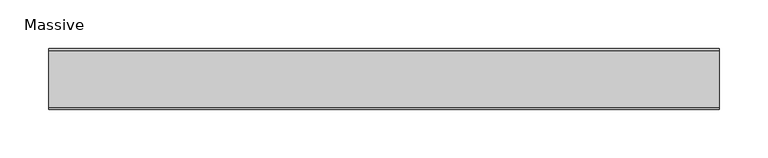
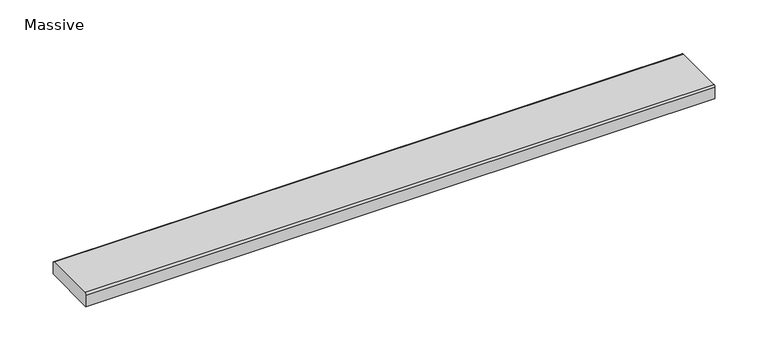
"""IFC4 building model written with IfcOpenShell, lengths in millimetres: sanitary terminal geometry, ZZZ_do not use_PF_ST_grating for showerdrain c INT_Aco : Massive."""

from ifc_helpers import new_model, si_unit, point, frame, frame_2d, origin, place, context, project, spatial, polyline, circle_curve, trimmed, segment, composite_curve, outline, extrude, source, transform, mapped, element, save


def massive_860a07fc(model_context):
    return source(origin(), model_context, "Body", "SweptSolid", [
        extrude(outline(composite_curve([segment(polyline([(31.0, -15.0), (-31.0, -15.0), (-31.0, -1.977849)]), True, "CONTINUOUS"), segment(trimmed(circle_curve(frame_2d((-29.022151, -1.977849)), 1.977849), [point((-31.0, -1.977849))], [point((-29.022151, 0.0))], False, "CARTESIAN"), True, "CONTINUOUS"), segment(polyline([(-29.022151, 0.0), (29.022151, 0.0)]), True, "CONTINUOUS"), segment(trimmed(circle_curve(frame_2d((29.022151, -1.977849)), 1.977849), [point((29.022151, 0.0))], [point((31.0, -1.977849))], False, "CARTESIAN"), True, "CONTINUOUS"), segment(polyline([(31.0, -1.977849), (31.0, -15.0)]), True, "CONTINUOUS")], self_intersect=False)), frame((-342.5, 0.0, 0.0), z_axis=(1.0, 0.0, 0.0), x_axis=(0.0, 1.0, 0.0)), (0.0, 0.0, 1.0), 685.0),
    ])


if __name__ == "__main__":
    model = new_model("IFC4")
    model_context = context("Model", 3, world=origin())
    ifc_project = project(units=[si_unit("LENGTHUNIT", "METRE", prefix="MILLI")], contexts=[model_context])
    site = spatial("IfcSite", under=ifc_project)
    building = spatial("IfcBuilding", under=site)
    placement = place(None, origin())
    massive_shape = massive_860a07fc(model_context)
    element("IfcSanitaryTerminal", 1, ObjectType="ZZZ_do not use_PF_ST_grating for showerdrain c INT_Aco : Massive", at=placement, inside=building, context=model_context, shape_type="MappedRepresentation", body=[
        mapped(massive_shape, transform((0.0, 0.0, 0.0), x_axis=(1.0, 0.0, 0.0), y_axis=(0.0, 1.0, 0.0), z_axis=(0.0, 0.0, 1.0))),
    ])
    save(model, "model.ifc")
